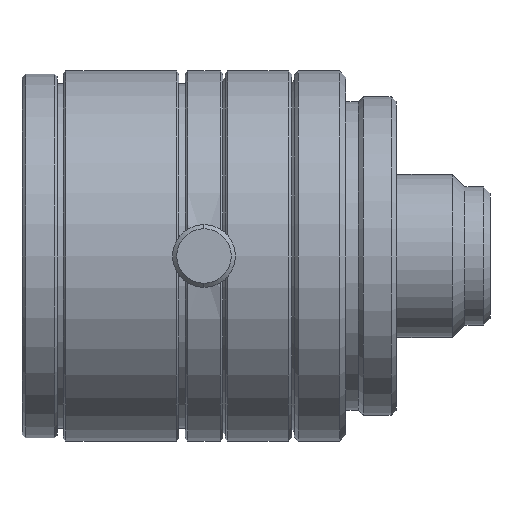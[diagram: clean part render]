
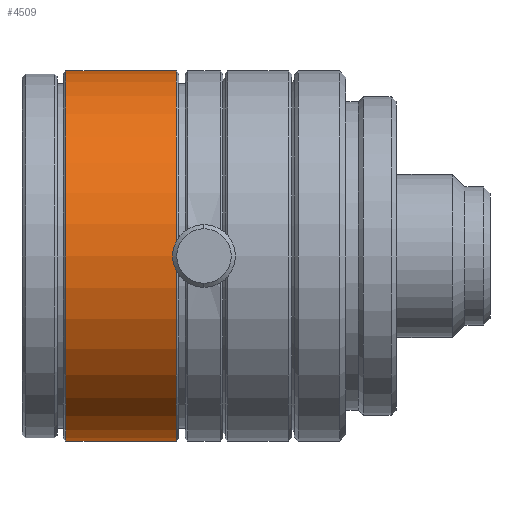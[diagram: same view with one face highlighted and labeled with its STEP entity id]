
A CAD part, front view. The second image highlights one B-rep face of the part: STEP entity #4509.
In plain terms, the highlighted cylindrical face has radius 14.75 mm (diameter 29.5 mm), a partial arc.
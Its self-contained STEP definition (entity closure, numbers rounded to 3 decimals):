
#371 = DIRECTION ( 'NONE',  ( 1., 0., 0. ) ) ;
#389 = DIRECTION ( 'NONE',  ( 1., 0., 0. ) ) ;
#505 = VERTEX_POINT ( 'NONE', #531 ) ;
#531 = CARTESIAN_POINT ( 'NONE',  ( -31., 0., 14.75 ) ) ;
#811 = ORIENTED_EDGE ( 'NONE', *, *, #3775, .F. ) ;
#812 = DIRECTION ( 'NONE',  ( 1., 0., 0. ) ) ;
#818 = DIRECTION ( 'NONE',  ( 1., 0., 0. ) ) ;
#1208 = ORIENTED_EDGE ( 'NONE', *, *, #3299, .F. ) ;
#1665 = CARTESIAN_POINT ( 'NONE',  ( 0., 0., -14.75 ) ) ;
#1972 = VERTEX_POINT ( 'NONE', #4628 ) ;
#2015 = ORIENTED_EDGE ( 'NONE', *, *, #3416, .T. ) ;
#2071 = CIRCLE ( 'NONE', #4368, 14.75 ) ;
#2087 = EDGE_LOOP ( 'NONE', ( #1208, #2015, #3995, #811 ) ) ;
#2103 = FACE_OUTER_BOUND ( 'NONE', #2087, .T. ) ;
#2293 = CARTESIAN_POINT ( 'NONE',  ( 0., 0., 14.75 ) ) ;
#2404 = VERTEX_POINT ( 'NONE', #4448 ) ;
#2526 = AXIS2_PLACEMENT_3D ( 'NONE', #3023, #389, #3807 ) ;
#2551 = AXIS2_PLACEMENT_3D ( 'NONE', #3095, #818, #3484 ) ;
#2600 = CIRCLE ( 'NONE', #2551, 14.75 ) ;
#2825 = LINE ( 'NONE', #2293, #4843 ) ;
#3023 = CARTESIAN_POINT ( 'NONE',  ( 0., 0., 0. ) ) ;
#3067 = LINE ( 'NONE', #1665, #3602 ) ;
#3085 = CARTESIAN_POINT ( 'NONE',  ( -31., 0., 0. ) ) ;
#3095 = CARTESIAN_POINT ( 'NONE',  ( -39.8, 0., 0. ) ) ;
#3299 = EDGE_CURVE ( 'NONE', #2404, #505, #2825, .T. ) ;
#3416 = EDGE_CURVE ( 'NONE', #2404, #4601, #2600, .T. ) ;
#3478 = DIRECTION ( 'NONE',  ( 0., 0., -1. ) ) ;
#3484 = DIRECTION ( 'NONE',  ( 0., 0., -1. ) ) ;
#3602 = VECTOR ( 'NONE', #4326, 1000. ) ;
#3769 = CYLINDRICAL_SURFACE ( 'NONE', #2526, 14.75 ) ;
#3775 = EDGE_CURVE ( 'NONE', #505, #1972, #2071, .T. ) ;
#3807 = DIRECTION ( 'NONE',  ( 0., 0., -1. ) ) ;
#3895 = EDGE_CURVE ( 'NONE', #4601, #1972, #3067, .T. ) ;
#3995 = ORIENTED_EDGE ( 'NONE', *, *, #3895, .T. ) ;
#4266 = CARTESIAN_POINT ( 'NONE',  ( -39.8, 0., -14.75 ) ) ;
#4326 = DIRECTION ( 'NONE',  ( 1., 0., 0. ) ) ;
#4368 = AXIS2_PLACEMENT_3D ( 'NONE', #3085, #812, #3478 ) ;
#4448 = CARTESIAN_POINT ( 'NONE',  ( -39.8, 0., 14.75 ) ) ;
#4509 = ADVANCED_FACE ( 'NONE', ( #2103 ), #3769, .T. ) ;
#4601 = VERTEX_POINT ( 'NONE', #4266 ) ;
#4628 = CARTESIAN_POINT ( 'NONE',  ( -31., 0., -14.75 ) ) ;
#4843 = VECTOR ( 'NONE', #371, 1000. ) ;
